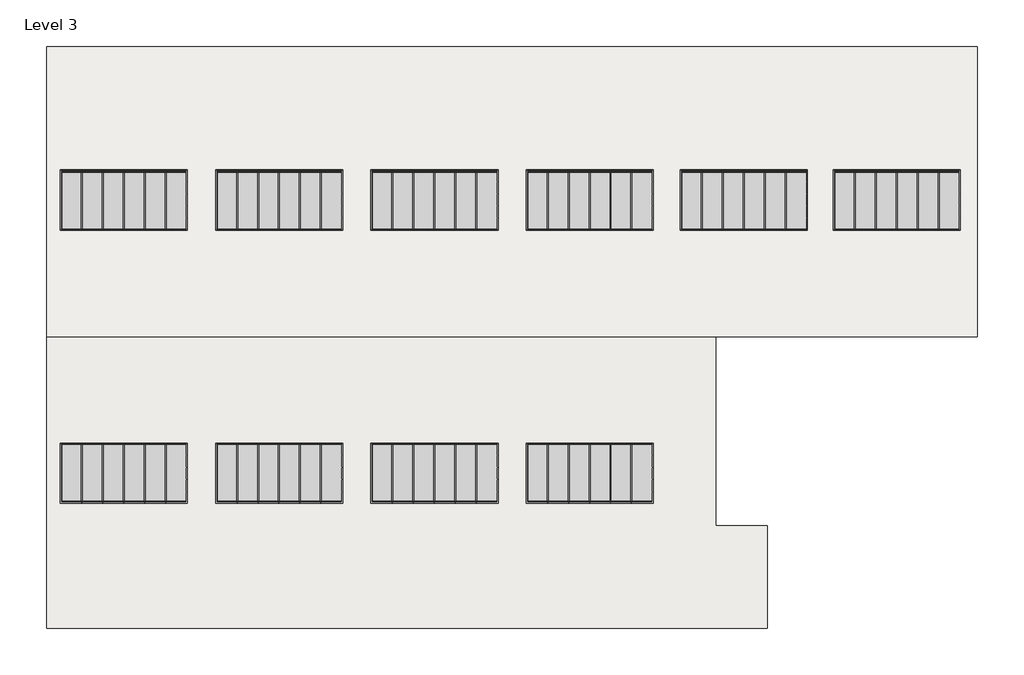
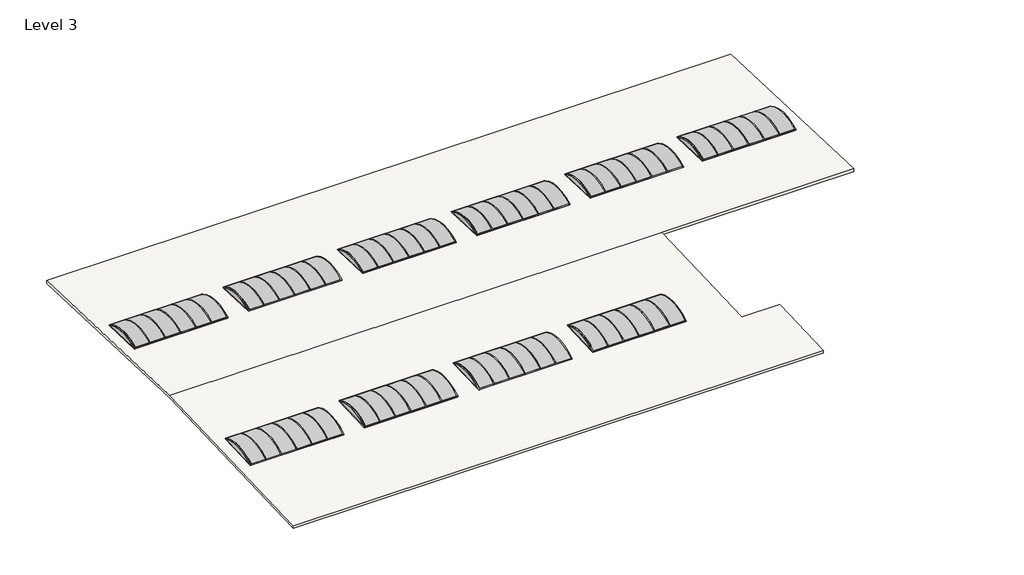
# One storey: 10 proxies, 1 roof.
"""IFC4 building model written with IfcOpenShell, lengths in millimetres."""

from ifc_helpers import new_model, si_unit, origin, place, context, project, spatial, faceted_brep, transform, mapped, element, save
from components import generic_models_dcab04f5

model = new_model("IFC4")

# Units and contexts
model_context = context("Model", 3, world=origin())
ifc_project = project(units=[si_unit("LENGTHUNIT", "METRE", prefix="MILLI")], contexts=[model_context])

# Site, building, storey
site = spatial("IfcSite", under=ifc_project)
building = spatial("IfcBuilding", under=site)
storey = spatial("IfcBuildingStorey", under=building, Name="Level 3", Elevation=11500.0)

# Proxies
placement = place(None, origin())
generic_models_shape = generic_models_dcab04f5(model_context)
element("IfcBuildingElementProxy", 1, Name="Fenetre de toit incurvée : Fenetre de toit incurvée", ObjectType="Fenetre de toit incurvée : Fenetre de toit incurvée", at=placement, inside=storey, context=model_context, shape_type="MappedRepresentation", body=[
    mapped(generic_models_shape, transform((4005.0, 8153.5512364, 6759.5090117), x_axis=(0.9999999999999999, 0.0, 0.0), y_axis=(0.0, 0.9992629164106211, 0.03838780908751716), z_axis=(0.0, -0.03838780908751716, 0.9992629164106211))),
])
element("IfcBuildingElementProxy", 2, Name="Fenetre de toit incurvée : Fenetre de toit incurvée", ObjectType="Fenetre de toit incurvée : Fenetre de toit incurvée", at=placement, inside=storey, context=model_context, shape_type="MappedRepresentation", body=[
    mapped(generic_models_shape, transform((12005.0, 8153.5512364, 6759.5090117), x_axis=(0.9999999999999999, 0.0, 0.0), y_axis=(0.0, 0.9992629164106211, 0.03838780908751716), z_axis=(0.0, -0.03838780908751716, 0.9992629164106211))),
])
element("IfcBuildingElementProxy", 3, Name="Fenetre de toit incurvée : Fenetre de toit incurvée", ObjectType="Fenetre de toit incurvée : Fenetre de toit incurvée", at=placement, inside=storey, context=model_context, shape_type="MappedRepresentation", body=[
    mapped(generic_models_shape, transform((20005.0, 8153.5512364, 6759.5090117), x_axis=(0.9999999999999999, 0.0, 0.0), y_axis=(0.0, 0.9992629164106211, 0.03838780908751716), z_axis=(0.0, -0.03838780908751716, 0.9992629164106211))),
])
element("IfcBuildingElementProxy", 4, Name="Fenetre de toit incurvée : Fenetre de toit incurvée", ObjectType="Fenetre de toit incurvée : Fenetre de toit incurvée", at=placement, inside=storey, context=model_context, shape_type="MappedRepresentation", body=[
    mapped(generic_models_shape, transform((28005.0, 8153.5512364, 6759.5090117), x_axis=(0.9999999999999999, 0.0, 0.0), y_axis=(0.0, 0.9992629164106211, 0.03838780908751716), z_axis=(0.0, -0.03838780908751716, 0.9992629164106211))),
])
element("IfcBuildingElementProxy", 5, Name="Fenetre de toit incurvée : Fenetre de toit incurvée", ObjectType="Fenetre de toit incurvée : Fenetre de toit incurvée", at=placement, inside=storey, context=model_context, shape_type="MappedRepresentation", body=[
    mapped(generic_models_shape, transform((4005.0, 21906.4487636, 6757.2040442), x_axis=(0.9999999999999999, 0.0, 0.0), y_axis=(0.0, 0.9992629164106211, -0.038387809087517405), z_axis=(0.0, 0.038387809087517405, 0.9992629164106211))),
])
element("IfcBuildingElementProxy", 6, Name="Fenetre de toit incurvée : Fenetre de toit incurvée", ObjectType="Fenetre de toit incurvée : Fenetre de toit incurvée", at=placement, inside=storey, context=model_context, shape_type="MappedRepresentation", body=[
    mapped(generic_models_shape, transform((12005.0, 21906.4487636, 6757.2040442), x_axis=(0.9999999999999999, 0.0, 0.0), y_axis=(0.0, 0.9992629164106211, -0.038387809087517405), z_axis=(0.0, 0.038387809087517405, 0.9992629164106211))),
])
element("IfcBuildingElementProxy", 7, Name="Fenetre de toit incurvée : Fenetre de toit incurvée", ObjectType="Fenetre de toit incurvée : Fenetre de toit incurvée", at=placement, inside=storey, context=model_context, shape_type="MappedRepresentation", body=[
    mapped(generic_models_shape, transform((20005.0, 21906.4487636, 6757.2040442), x_axis=(0.9999999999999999, 0.0, 0.0), y_axis=(0.0, 0.9992629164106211, -0.038387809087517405), z_axis=(0.0, 0.038387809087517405, 0.9992629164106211))),
])
element("IfcBuildingElementProxy", 8, Name="Fenetre de toit incurvée : Fenetre de toit incurvée", ObjectType="Fenetre de toit incurvée : Fenetre de toit incurvée", at=placement, inside=storey, context=model_context, shape_type="MappedRepresentation", body=[
    mapped(generic_models_shape, transform((28005.0, 21906.4487636, 6757.2040442), x_axis=(0.9999999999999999, 0.0, 0.0), y_axis=(0.0, 0.9992629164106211, -0.038387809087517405), z_axis=(0.0, 0.038387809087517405, 0.9992629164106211))),
])
element("IfcBuildingElementProxy", 9, Name="Fenetre de toit incurvée : Fenetre de toit incurvée", ObjectType="Fenetre de toit incurvée : Fenetre de toit incurvée", at=placement, inside=storey, context=model_context, shape_type="MappedRepresentation", body=[
    mapped(generic_models_shape, transform((35949.0, 21906.4487636, 6757.2040442), x_axis=(0.9999999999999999, 0.0, 0.0), y_axis=(0.0, 0.9992629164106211, -0.038387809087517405), z_axis=(0.0, 0.038387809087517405, 0.9992629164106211))),
])
element("IfcBuildingElementProxy", 10, Name="Fenetre de toit incurvée : Fenetre de toit incurvée", ObjectType="Fenetre de toit incurvée : Fenetre de toit incurvée", at=placement, inside=storey, context=model_context, shape_type="MappedRepresentation", body=[
    mapped(generic_models_shape, transform((43825.0, 21906.4487636, 6757.2040442), x_axis=(0.9999999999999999, 0.0, 0.0), y_axis=(0.0, 0.9992629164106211, -0.038387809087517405), z_axis=(0.0, 0.038387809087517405, 0.9992629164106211))),
])

# Roof
element("IfcRoof", 11, ObjectType="Toit - 200 mm", at=placement, inside=storey, context=model_context, shape_type="Brep", body=[
    faceted_brep([(37159.4829967, 20.0, 10450.0), (20.0, 20.0, 10450.0), (20.0, 15000.0, 11025.4735522), (34488.36989, 15000.0, 11025.4735522), (34488.36989, 5297.0803084, 10652.7249767), (37159.4829967, 5297.0803084, 10652.7249767), (7230.0, 6526.0871983, 10699.938659), (7230.0, 9473.9128017, 10813.1826958), (780.0, 9473.9128017, 10813.1826958), (780.0, 6526.0871983, 10699.938659), (15230.0, 6526.0871983, 10699.938659), (15230.0, 9473.9128017, 10813.1826958), (8780.0, 9473.9128017, 10813.1826958), (8780.0, 6526.0871983, 10699.938659), (23230.0, 6526.0871983, 10699.938659), (23230.0, 9473.9128017, 10813.1826958), (16780.0, 9473.9128017, 10813.1826958), (16780.0, 6526.0871983, 10699.938659), (31230.0, 6526.0871983, 10699.938659), (31230.0, 9473.9128017, 10813.1826958), (24780.0, 9473.9128017, 10813.1826958), (24780.0, 6526.0871983, 10699.938659), (20.0, 29980.0, 10450.0), (47980.0, 29980.0, 10450.0), (47980.0, 15020.0, 11024.7052297), (34488.36989, 15020.0, 11024.7052297), (7230.0, 20586.0871983, 10810.8777283), (7230.0, 23533.9128017, 10697.6336915), (780.0, 23533.9128017, 10697.6336915), (780.0, 20586.0871983, 10810.8777283), (15230.0, 20586.0871983, 10810.8777283), (15230.0, 23533.9128017, 10697.6336915), (8780.0, 23533.9128017, 10697.6336915), (8780.0, 20586.0871983, 10810.8777283), (23230.0, 20586.0871983, 10810.8777283), (23230.0, 23533.9128017, 10697.6336915), (16780.0, 23533.9128017, 10697.6336915), (16780.0, 20586.0871983, 10810.8777283), (31230.0, 20586.0871983, 10810.8777283), (31230.0, 23533.9128017, 10697.6336915), (24780.0, 23533.9128017, 10697.6336915), (24780.0, 20586.0871983, 10810.8777283), (39174.0, 20586.0871983, 10810.8777283), (39174.0, 23533.9128017, 10697.6336915), (32724.0, 23533.9128017, 10697.6336915), (32724.0, 20586.0871983, 10810.8777283), (47050.0, 20586.0871983, 10810.8777283), (47050.0, 23533.9128017, 10697.6336915), (40600.0, 23533.9128017, 10697.6336915), (40600.0, 20586.0871983, 10810.8777283), (20.0, 20.0, 10650.1475255), (37159.4829967, 20.0, 10650.1475255), (37159.4829967, 5297.0803084, 10852.8725021), (34488.36989, 5297.0803084, 10852.8725021), (34488.36989, 15000.0, 11225.6210777), (20.0, 15000.0, 11225.6210777), (7230.0, 6518.4096365, 10899.7912422), (780.0, 6518.4096365, 10899.7912422), (780.0, 9466.2352399, 11013.035279), (7230.0, 9466.2352399, 11013.035279), (15230.0, 6518.4096365, 10899.7912422), (8780.0, 6518.4096365, 10899.7912422), (8780.0, 9466.2352399, 11013.035279), (15230.0, 9466.2352399, 11013.035279), (23230.0, 6518.4096365, 10899.7912422), (16780.0, 6518.4096365, 10899.7912422), (16780.0, 9466.2352399, 11013.035279), (23230.0, 9466.2352399, 11013.035279), (31230.0, 6518.4096365, 10899.7912422), (24780.0, 6518.4096365, 10899.7912422), (24780.0, 9466.2352399, 11013.035279), (31230.0, 9466.2352399, 11013.035279), (20.0, 29980.0, 10650.1475255), (34488.36989, 15020.0, 11224.8527552), (47980.0, 15020.0, 11224.8527552), (47980.0, 29980.0, 10650.1475255), (7230.0, 20593.7647601, 11010.7303116), (780.0, 20593.7647601, 11010.7303116), (780.0, 23541.5903635, 10897.4862747), (7230.0, 23541.5903635, 10897.4862747), (15230.0, 20593.7647601, 11010.7303116), (8780.0, 20593.7647601, 11010.7303116), (8780.0, 23541.5903635, 10897.4862747), (15230.0, 23541.5903635, 10897.4862747), (23230.0, 20593.7647601, 11010.7303116), (16780.0, 20593.7647601, 11010.7303116), (16780.0, 23541.5903635, 10897.4862747), (23230.0, 23541.5903635, 10897.4862747), (31230.0, 20593.7647601, 11010.7303116), (24780.0, 20593.7647601, 11010.7303116), (24780.0, 23541.5903635, 10897.4862747), (31230.0, 23541.5903635, 10897.4862747), (39174.0, 20593.7647601, 11010.7303116), (32724.0, 20593.7647601, 11010.7303116), (32724.0, 23541.5903635, 10897.4862747), (39174.0, 23541.5903635, 10897.4862747), (47050.0, 20593.7647601, 11010.7303116), (40600.0, 20593.7647601, 11010.7303116), (40600.0, 23541.5903635, 10897.4862747), (47050.0, 23541.5903635, 10897.4862747)], [[[0, 1, 2, 3, 4, 5], [6, 7, 8, 9], [10, 11, 12, 13], [14, 15, 16, 17], [18, 19, 20, 21]], [[2, 22, 23, 24, 25, 3], [26, 27, 28, 29], [30, 31, 32, 33], [34, 35, 36, 37], [38, 39, 40, 41], [42, 43, 44, 45], [46, 47, 48, 49]], [[50, 51, 52, 53, 54, 55], [56, 57, 58, 59], [60, 61, 62, 63], [64, 65, 66, 67], [68, 69, 70, 71]], [[72, 55, 54, 73, 74, 75], [76, 77, 78, 79], [80, 81, 82, 83], [84, 85, 86, 87], [88, 89, 90, 91], [92, 93, 94, 95], [96, 97, 98, 99]], [[0, 51, 50, 1]], [[22, 72, 75, 23]], [[50, 55, 72, 22, 2, 1]], [[52, 51, 0, 5]], [[53, 52, 5, 4]], [[73, 54, 53, 4, 3, 25]], [[74, 73, 25, 24]], [[75, 74, 24, 23]], [[7, 6, 56, 59]], [[8, 7, 59, 58]], [[9, 8, 58, 57]], [[6, 9, 57, 56]], [[11, 10, 60, 63]], [[12, 11, 63, 62]], [[13, 12, 62, 61]], [[10, 13, 61, 60]], [[15, 14, 64, 67]], [[16, 15, 67, 66]], [[17, 16, 66, 65]], [[14, 17, 65, 64]], [[19, 18, 68, 71]], [[20, 19, 71, 70]], [[21, 20, 70, 69]], [[18, 21, 69, 68]], [[27, 26, 76, 79]], [[28, 27, 79, 78]], [[29, 28, 78, 77]], [[26, 29, 77, 76]], [[31, 30, 80, 83]], [[32, 31, 83, 82]], [[33, 32, 82, 81]], [[30, 33, 81, 80]], [[35, 34, 84, 87]], [[36, 35, 87, 86]], [[37, 36, 86, 85]], [[34, 37, 85, 84]], [[39, 38, 88, 91]], [[40, 39, 91, 90]], [[41, 40, 90, 89]], [[38, 41, 89, 88]], [[43, 42, 92, 95]], [[44, 43, 95, 94]], [[45, 44, 94, 93]], [[42, 45, 93, 92]], [[47, 46, 96, 99]], [[48, 47, 99, 98]], [[49, 48, 98, 97]], [[46, 49, 97, 96]]]),
])

save(model, "model.ifc")
